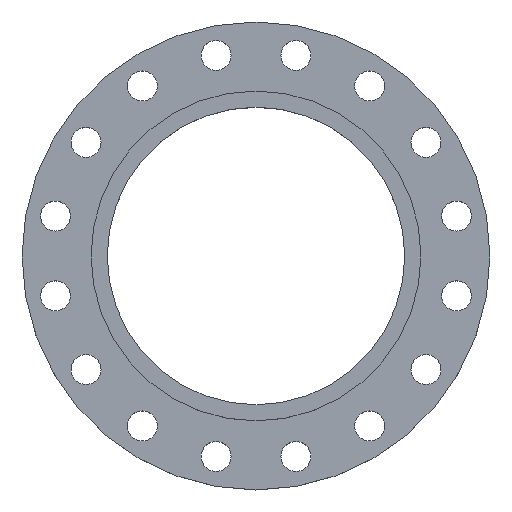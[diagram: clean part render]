
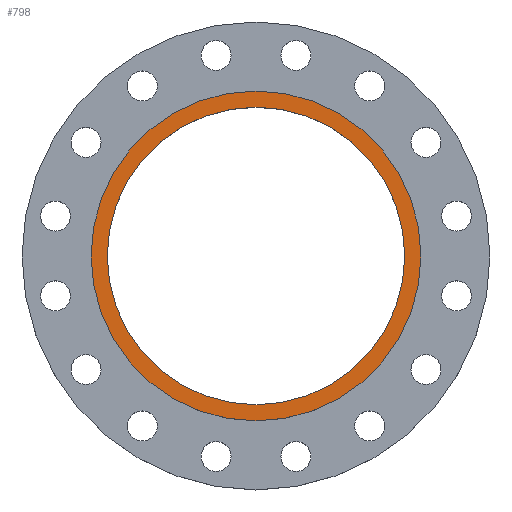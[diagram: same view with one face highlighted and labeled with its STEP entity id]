
A CAD part, top view. The second image highlights one B-rep face of the part: STEP entity #798.
In plain terms, the highlighted planar face has unit normal (0, 0, 1).
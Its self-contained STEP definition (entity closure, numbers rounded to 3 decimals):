
#6 = CIRCLE ( 'NONE', #1354, 181.5 ) ;
#144 = AXIS2_PLACEMENT_3D ( 'NONE', #662, #661, #660 ) ;
#176 = EDGE_CURVE ( 'NONE', #1515, #1429, #1387, .T. ) ;
#257 = CARTESIAN_POINT ( 'NONE',  ( 181.5, 0., 0. ) ) ;
#263 = DIRECTION ( 'NONE',  ( 1., 0., 0. ) ) ;
#264 = DIRECTION ( 'NONE',  ( 0., 0., 1. ) ) ;
#265 = CARTESIAN_POINT ( 'NONE',  ( 0., 0., 0. ) ) ;
#347 = EDGE_CURVE ( 'NONE', #1429, #1515, #6, .T. ) ;
#348 = AXIS2_PLACEMENT_3D ( 'NONE', #265, #264, #263 ) ;
#355 = CARTESIAN_POINT ( 'NONE',  ( -181.5, 0., 0. ) ) ;
#433 = CARTESIAN_POINT ( 'NONE',  ( -163.75, 0., 0. ) ) ;
#452 = CIRCLE ( 'NONE', #348, 163.75 ) ;
#529 = CARTESIAN_POINT ( 'NONE',  ( 163.75, 0., 0. ) ) ;
#660 = DIRECTION ( 'NONE',  ( 1., 0., 0. ) ) ;
#661 = DIRECTION ( 'NONE',  ( 0., 0., 1. ) ) ;
#662 = CARTESIAN_POINT ( 'NONE',  ( 0., 0., 0. ) ) ;
#663 = PLANE ( 'NONE',  #144 ) ;
#664 = FACE_OUTER_BOUND ( 'NONE', #1063, .T. ) ;
#666 = FACE_BOUND ( 'NONE', #1114, .T. ) ;
#699 = EDGE_CURVE ( 'NONE', #1056, #1217, #945, .T. ) ;
#718 = DIRECTION ( 'NONE',  ( 1., 0., 0. ) ) ;
#721 = DIRECTION ( 'NONE',  ( 0., 0., 1. ) ) ;
#722 = CARTESIAN_POINT ( 'NONE',  ( 0., 0., 0. ) ) ;
#798 = ADVANCED_FACE ( 'NONE', ( #666, #664 ), #663, .T. ) ;
#834 = DIRECTION ( 'NONE',  ( -1., 0., 0. ) ) ;
#835 = DIRECTION ( 'NONE',  ( 0., 0., -1. ) ) ;
#837 = CARTESIAN_POINT ( 'NONE',  ( 0., 0., 0. ) ) ;
#880 = DIRECTION ( 'NONE',  ( -1., 0., 0. ) ) ;
#881 = DIRECTION ( 'NONE',  ( 0., 0., -1. ) ) ;
#883 = CARTESIAN_POINT ( 'NONE',  ( 0., 0., 0. ) ) ;
#945 = CIRCLE ( 'NONE', #947, 163.75 ) ;
#947 = AXIS2_PLACEMENT_3D ( 'NONE', #722, #721, #718 ) ;
#1056 = VERTEX_POINT ( 'NONE', #529 ) ;
#1063 = EDGE_LOOP ( 'NONE', ( #1449, #1450 ) ) ;
#1114 = EDGE_LOOP ( 'NONE', ( #1447, #1448 ) ) ;
#1217 = VERTEX_POINT ( 'NONE', #433 ) ;
#1354 = AXIS2_PLACEMENT_3D ( 'NONE', #837, #835, #834 ) ;
#1381 = AXIS2_PLACEMENT_3D ( 'NONE', #883, #881, #880 ) ;
#1387 = CIRCLE ( 'NONE', #1381, 181.5 ) ;
#1429 = VERTEX_POINT ( 'NONE', #355 ) ;
#1447 = ORIENTED_EDGE ( 'NONE', *, *, #699, .F. ) ;
#1448 = ORIENTED_EDGE ( 'NONE', *, *, #1512, .F. ) ;
#1449 = ORIENTED_EDGE ( 'NONE', *, *, #347, .F. ) ;
#1450 = ORIENTED_EDGE ( 'NONE', *, *, #176, .F. ) ;
#1512 = EDGE_CURVE ( 'NONE', #1217, #1056, #452, .T. ) ;
#1515 = VERTEX_POINT ( 'NONE', #257 ) ;
